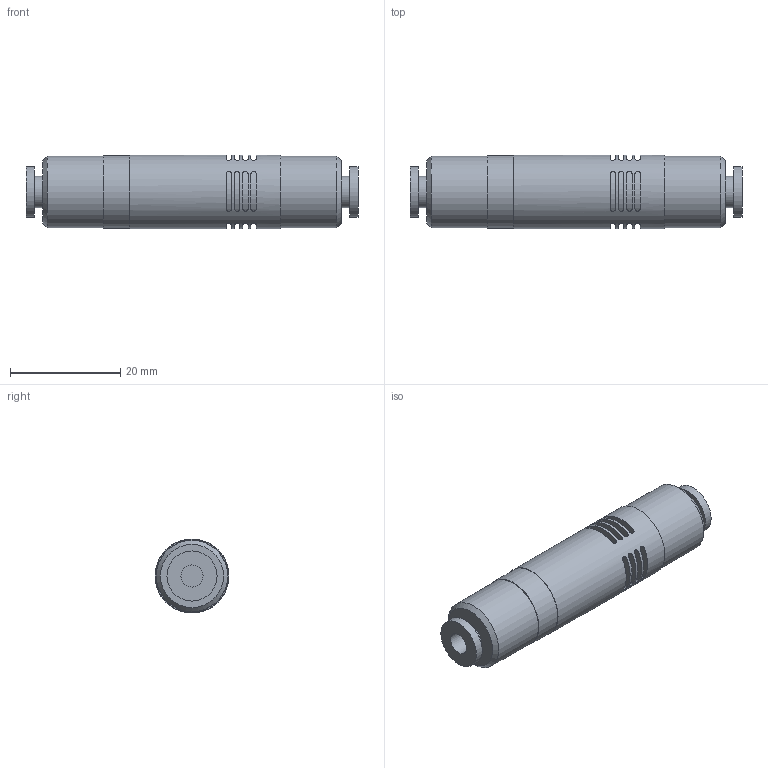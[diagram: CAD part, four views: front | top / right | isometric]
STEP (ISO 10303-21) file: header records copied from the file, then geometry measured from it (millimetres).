
FILE_DESCRIPTION (( 'STEP AP214' ), '1' );
FILE_NAME ('V-VUH-05-44.STEP', '2025-01-29T18:07:26', ( '' ), ( '' ), 'SwSTEP 2.0', 'SolidWorks 2018', '' );
FILE_SCHEMA (( 'AUTOMOTIVE_DESIGN' ));
Length unit declared in the file: millimetre
Products named in the file (1): V-VUH-05-44
Bounding box: 60.2 x 13.4 x 13.4 mm (x, y, z)
Volume: 7294.6 mm3; surface area: 3348.9 mm2
Topology: 1 solids, 1 shells, 103 faces, 242 edges, 162 vertices
Faces by surface type: cylinder 58, plane 43, cone 2
Full cylindrical faces by diameter (mm): 4 x2, 5.7 x2, 9.1 x2, 12.95 x2, 13.2 x1, 13.4 x1
Entity records: 3536 total; most frequent: CARTESIAN_POINT 1308, DIRECTION 444, ORIENTED_EDGE 428, EDGE_CURVE 214, AXIS2_PLACEMENT_3D 190, VERTEX_POINT 150, EDGE_LOOP 140, FACE_OUTER_BOUND 113
